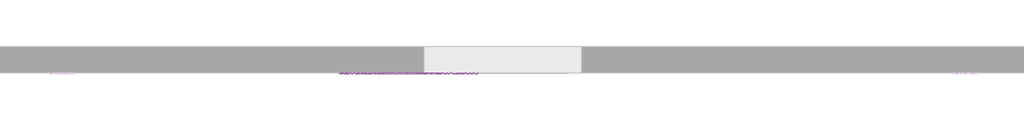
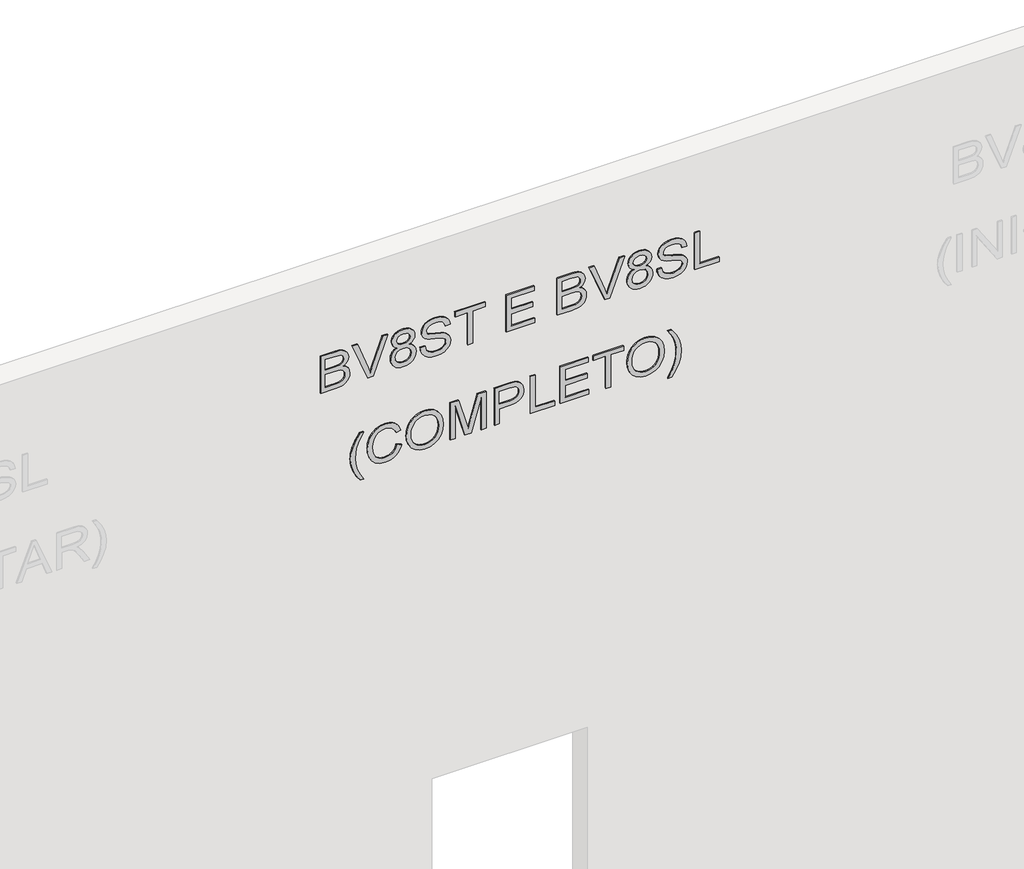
# One storey, part 3 of 5: 1 proxy.
"""IFC4 building model written with IfcOpenShell, lengths in millimetres."""

from ifc_helpers import new_model, si_unit, frame, origin, place, context, project, spatial, polyline, outline, extrude, element, save

model = new_model("IFC4")

# Units and contexts
model_context = context("Model", 3, world=origin())
ifc_project = project(units=[si_unit("LENGTHUNIT", "METRE", prefix="MILLI")], contexts=[model_context])

# Site, building, storey
site = spatial("IfcSite", under=ifc_project)
building = spatial("IfcBuilding", under=site)
storey = spatial("IfcBuildingStorey", under=building, Name="01 - Marelli - Planta Baixa - Painel Simples", Elevation=0.0)

# Proxy
placement = place(None, origin())
element("IfcBuildingElementProxy", 1, Name="300mm Arial", ObjectType="300mm Arial", at=placement, inside=storey, context=model_context, shape_type="SweptSolid", body=[
    extrude(outline(polyline([(6065.9244535, 12403.4901942), (6065.9244535, 12517.6071891), (6071.1115897, 12565.9100951), (6077.5311305, 12583.9455099), (6086.4154807, 12598.6883809), (6098.6843452, 12610.7273191), (6115.2574291, 12620.650936), (6134.7459778, 12627.300403), (6155.7612368, 12629.5168921), (6180.9795475, 12626.2703334), (6202.6294029, 12616.5306576), (6219.5887629, 12600.7577171), (6230.7355874, 12579.4113643), (6242.4802201, 12597.2812322), (6257.407032, 12609.9823581), (6274.4675596, 12617.5699243), (6292.613339, 12620.099113), (6312.3318139, 12617.0916777), (6331.1673721, 12608.0693717), (6347.1794359, 12593.740368), (6358.4274279, 12574.8128394), (6365.076895, 12550.1187604), (6367.293384, 12518.4901059), (6367.293384, 12403.4901942), (6065.9244535, 12403.4901942)]), holes=[polyline([(6244.862256, 12441.1613105), (6329.6222677, 12441.1613105), (6329.6222677, 12504.7313193), (6325.6859303, 12553.1445899), (6320.084927, 12565.6341836), (6311.1545915, 12574.8496276), (6299.7134615, 12580.5334044), (6286.5800742, 12582.4279967), (6273.0512139, 12580.3954486), (6262.0423452, 12574.2978046), (6253.6822268, 12564.1902468), (6248.0996175, 12550.1279575), (6244.862256, 12509.9552436), (6244.862256, 12441.1613105)]), polyline([(6103.5955698, 12441.1613105), (6207.1911397, 12441.1613105), (6207.1911397, 12514.7377096), (6205.9311438, 12541.5655041), (6202.1511563, 12561.2747819), (6195.262566, 12575.1899184), (6184.6767616, 12584.6352886), (6171.1387042, 12590.043154), (6155.3933548, 12591.8457757), (6141.8369032, 12590.3098684), (6130.0094971, 12585.7021464), (6113.2708663, 12570.0303734), (6105.0670978, 12546.3755611), (6103.5955698, 12518.4165295), (6103.5955698, 12441.1613105)])]), frame((0.0, 8778.3159498, 0.0), z_axis=(0.0, 1.0, 0.0), x_axis=(0.0, 0.0, 1.0)), (0.0, 0.0, 1.0), 10.0),
    extrude(outline(polyline([(6065.9244535, 12770.3421198), (6065.9244535, 12809.2640349), (6367.293384, 12924.1167938), (6367.293384, 12883.7969271), (6150.1694304, 12803.3043466), (6101.2411251, 12787.2646916), (6150.1694304, 12771.0043074), (6367.293384, 12690.732456), (6367.293384, 12650.4125894), (6065.9244535, 12770.3421198)])), frame((0.0, 8778.3159498, 0.0), z_axis=(0.0, 1.0, 0.0), x_axis=(0.0, 0.0, 1.0)), (0.0, 0.0, 1.0), 10.0),
    extrude(outline(polyline([(6231.9128098, 12999.9004848), (6221.4281729, 12976.5767663), (6204.5423893, 12959.2863125), (6182.0280112, 12948.5809465), (6154.6575908, 12945.0124911), (6135.5070337, 12946.7139453), (6118.007347, 12951.818308), (6102.1585308, 12960.3255792), (6087.960585, 12972.2357588), (6076.2596383, 12986.9234474), (6067.9018193, 13003.7632457), (6062.8871278, 13022.7551537), (6061.215564, 13043.8991714), (6062.88023, 13065.0431891), (6067.8742281, 13084.0350971), (6076.1975583, 13100.8748954), (6087.8502204, 13115.5625841), (6101.9492979, 13127.4727637), (6117.6118739, 13135.9800348), (6134.8379483, 13141.0843975), (6153.6275212, 13142.7858517), (6179.9770691, 13139.3553521), (6202.3718855, 13129.0638533), (6219.965842, 13112.1872668), (6231.9128098, 13089.001504), (6241.8180325, 13108.5268409), (6255.1997401, 13122.368401), (6271.6348682, 13130.6181547), (6290.7003526, 13133.3680726), (6306.0962141, 13131.8229683), (6320.278065, 13127.1876551), (6333.2459053, 13119.4621332), (6344.9997351, 13108.6464026), (6354.7532065, 13095.2968847), (6361.7199718, 13079.970001), (6367.293384, 13043.3841366), (6361.8487305, 13007.0190014), (6355.0429135, 12991.8576647), (6345.5147699, 12978.7104819), (6333.9862678, 12968.0878893), (6321.1793759, 12960.5003231), (6307.094094, 12955.9477834), (6291.7304222, 12954.4302702), (6272.0303413, 12957.2169763), (6255.3101047, 12965.5770946), (6241.8456236, 12979.7313544), (6231.9128098, 12999.9004848)]), holes=[polyline([(6290.6267762, 12992.1013865), (6305.525997, 12995.4950979), (6318.1443494, 13005.6762321), (6326.7527881, 13022.0193898), (6329.6222677, 13043.8991714), (6326.6884088, 13065.6409973), (6317.886832, 13082.0117461), (6304.781036, 13092.2756538), (6288.934519, 13095.6969563), (6273.6674162, 13092.3860184), (6260.9754874, 13082.4532045), (6252.422231, 13066.3031849), (6249.5711455, 13044.3406298), (6252.4406251, 13021.8538429), (6261.0490638, 13005.4555029), (6274.182451, 12995.4399156), (6290.6267762, 12992.1013865)]), polyline([(6155.981966, 12982.6836074), (6177.9629152, 12986.66593), (6195.9339506, 12998.6128978), (6207.9085096, 13017.6599881), (6211.9000292, 13042.9426782), (6207.8533273, 13068.8783589), (6195.7132214, 13088.5600456), (6177.3926981, 13100.976063), (6154.8047436, 13105.1147354), (6132.5938681, 13101.1048217), (6114.6688179, 13089.0750804), (6102.8322147, 13069.8348521), (6098.8866803, 13044.193477), (6100.7628785, 13027.4548462), (6106.391473, 13011.2312502), (6115.4505671, 12997.6839958), (6127.6182641, 12988.9743895), (6155.981966, 12982.6836074)])]), frame((0.0, 8778.3159498, 0.0), z_axis=(0.0, 1.0, 0.0), x_axis=(0.0, 0.0, 1.0)), (0.0, 0.0, 1.0), 10.0),
    extrude(outline(polyline([(6169.5200234, 13175.7480785), (6139.0961824, 13180.2178447), (6111.9832793, 13192.0084627), (6089.7264186, 13210.3749713), (6073.8707046, 13234.5724095), (6064.3793492, 13264.9502653), (6061.215564, 13301.8580264), (6064.1494229, 13331.9231825), (6072.9509996, 13358.8429475), (6087.0408801, 13381.2285669), (6105.83965, 13397.6912862), (6127.6826435, 13407.8172381), (6150.9051944, 13411.1925554), (6173.6219076, 13408.2586965), (6193.5059295, 13399.4571198), (6210.3733189, 13384.4751255), (6224.0401351, 13363.000014), (6232.8509088, 13337.8736738), (6242.9492696, 13296.3397965), (6253.5810593, 13256.0935062), (6263.9921197, 13234.8299269), (6275.6355849, 13225.8352121), (6290.1117414, 13222.8369739), (6307.0894955, 13227.0676168), (6321.381711, 13239.7595457), (6331.0937957, 13261.7037067), (6334.3311572, 13293.6910461), (6331.0570075, 13324.9426216), (6321.2345582, 13347.4753938), (6305.0109622, 13361.896368), (6282.5333723, 13368.8125496), (6282.5333723, 13406.4836659), (6307.4941657, 13402.2346288), (6329.6958441, 13391.5476569), (6347.9979733, 13374.6618733), (6361.2601193, 13351.8164014), (6369.316735, 13324.0045225), (6372.0022735, 13292.2195182), (6369.4362966, 13262.880929), (6361.7383659, 13236.3750313), (6349.0832252, 13214.2929145), (6331.6456187, 13198.2256684), (6311.0718181, 13188.4308103), (6289.0080954, 13185.1658576), (6269.2712264, 13187.8054109), (6251.5577083, 13195.7240708), (6236.198635, 13209.0138079), (6223.5251003, 13227.7665926), (6214.4660061, 13250.8052026), (6204.9470595, 13286.8116528), (6190.5628735, 13341.6628583), (6182.7545782, 13357.7393015), (6173.4563607, 13367.2674452), (6162.5578566, 13371.9579406), (6149.9487012, 13373.5214391), (6137.0084521, 13371.4337088), (6124.6752082, 13365.1705178), (6113.9330539, 13354.6398957), (6105.7660736, 13339.7498719), (6100.6065286, 13321.3741663), (6098.8866803, 13300.3864985), (6101.1583516, 13276.5477452), (6107.9733656, 13255.2105894), (6118.4763965, 13237.7545888), (6131.8121189, 13225.5593006), (6148.615129, 13217.7418082), (6169.5200234, 13213.4191948), (6169.5200234, 13175.7480785)])), frame((0.0, 8778.3159498, 0.0), z_axis=(0.0, 1.0, 0.0), x_axis=(0.0, 0.0, 1.0)), (0.0, 0.0, 1.0), 10.0),
    extrude(outline(polyline([(6065.9244535, 13543.0414625), (6065.9244535, 13580.7125788), (6329.6222677, 13580.7125788), (6329.6222677, 13679.5992591), (6367.293384, 13679.5992591), (6367.293384, 13444.1547822), (6329.6222677, 13444.1547822), (6329.6222677, 13543.0414625), (6065.9244535, 13543.0414625)])), frame((0.0, 8778.3159498, 0.0), z_axis=(0.0, 1.0, 0.0), x_axis=(0.0, 0.0, 1.0)), (0.0, 0.0, 1.0), 10.0),
    extrude(outline(polyline([(6065.9244535, 13839.7015034), (6065.9244535, 14061.0193117), (6103.5955698, 14061.0193117), (6103.5955698, 13877.3726197), (6202.4822501, 13877.3726197), (6202.4822501, 14046.8926431), (6240.1533665, 14046.8926431), (6240.1533665, 13877.3726197), (6329.6222677, 13877.3726197), (6329.6222677, 14056.3104221), (6367.293384, 14056.3104221), (6367.293384, 13839.7015034), (6065.9244535, 13839.7015034)])), frame((0.0, 8778.3159498, 0.0), z_axis=(0.0, 1.0, 0.0), x_axis=(0.0, 0.0, 1.0)), (0.0, 0.0, 1.0), 10.0),
    extrude(outline(polyline([(6065.9244535, 14235.2482246), (6065.9244535, 14349.3652195), (6071.1115897, 14397.6681255), (6077.5311305, 14415.7035403), (6086.4154807, 14430.4464112), (6098.6843452, 14442.4853495), (6115.2574291, 14452.4089664), (6134.7459778, 14459.0584334), (6155.7612368, 14461.2749224), (6180.9795475, 14458.0283638), (6202.6294029, 14448.288688), (6219.5887629, 14432.5157475), (6230.7355874, 14411.1693947), (6242.4802201, 14429.0392626), (6257.407032, 14441.7403885), (6274.4675596, 14449.3279546), (6292.613339, 14451.8571434), (6312.3318139, 14448.849708), (6331.1673721, 14439.8274021), (6347.1794359, 14425.4983984), (6358.4274279, 14406.5708698), (6365.076895, 14381.8767908), (6367.293384, 14350.2481363), (6367.293384, 14235.2482246), (6065.9244535, 14235.2482246)]), holes=[polyline([(6244.862256, 14272.9193409), (6329.6222677, 14272.9193409), (6329.6222677, 14336.4893497), (6325.6859303, 14384.9026202), (6320.084927, 14397.392214), (6311.1545915, 14406.607658), (6299.7134615, 14412.2914348), (6286.5800742, 14414.1860271), (6273.0512139, 14412.153479), (6262.0423452, 14406.055835), (6253.6822268, 14395.9482771), (6248.0996175, 14381.8859879), (6244.862256, 14341.713274), (6244.862256, 14272.9193409)]), polyline([(6103.5955698, 14272.9193409), (6207.1911397, 14272.9193409), (6207.1911397, 14346.4957399), (6205.9311438, 14373.3235344), (6202.1511563, 14393.0328123), (6195.262566, 14406.9479488), (6184.6767616, 14416.393319), (6171.1387042, 14421.8011844), (6155.3933548, 14423.6038061), (6141.8369032, 14422.0678988), (6130.0094971, 14417.4601768), (6113.2708663, 14401.7884038), (6105.0670978, 14378.1335915), (6103.5955698, 14350.1745599), (6103.5955698, 14272.9193409)])]), frame((0.0, 8778.3159498, 0.0), z_axis=(0.0, 1.0, 0.0), x_axis=(0.0, 0.0, 1.0)), (0.0, 0.0, 1.0), 10.0),
    extrude(outline(polyline([(6065.9244535, 14602.1001502), (6065.9244535, 14641.0220653), (6367.293384, 14755.8748242), (6367.293384, 14715.5549575), (6150.1694304, 14635.062377), (6101.2411251, 14619.022722), (6150.1694304, 14602.7623378), (6367.293384, 14522.4904864), (6367.293384, 14482.1706198), (6065.9244535, 14602.1001502)])), frame((0.0, 8778.3159498, 0.0), z_axis=(0.0, 1.0, 0.0), x_axis=(0.0, 0.0, 1.0)), (0.0, 0.0, 1.0), 10.0),
    extrude(outline(polyline([(6231.9128098, 14831.6585152), (6221.4281729, 14808.3347967), (6204.5423893, 14791.0443429), (6182.0280112, 14780.3389769), (6154.6575908, 14776.7705215), (6135.5070337, 14778.4719757), (6118.007347, 14783.5763384), (6102.1585308, 14792.0836095), (6087.960585, 14803.9937891), (6076.2596383, 14818.6814778), (6067.9018193, 14835.5212761), (6062.8871278, 14854.5131841), (6061.215564, 14875.6572018), (6062.88023, 14896.8012195), (6067.8742281, 14915.7931275), (6076.1975583, 14932.6329258), (6087.8502204, 14947.3206145), (6101.9492979, 14959.2307941), (6117.6118739, 14967.7380652), (6134.8379483, 14972.8424279), (6153.6275212, 14974.5438821), (6179.9770691, 14971.1133825), (6202.3718855, 14960.8218837), (6219.965842, 14943.9452972), (6231.9128098, 14920.7595344), (6241.8180325, 14940.2848713), (6255.1997401, 14954.1264314), (6271.6348682, 14962.3761851), (6290.7003526, 14965.126103), (6306.0962141, 14963.5809987), (6320.278065, 14958.9456855), (6333.2459053, 14951.2201636), (6344.9997351, 14940.404433), (6354.7532065, 14927.0549151), (6361.7199718, 14911.7280314), (6367.293384, 14875.142167), (6361.8487305, 14838.7770318), (6355.0429135, 14823.6156951), (6345.5147699, 14810.4685123), (6333.9862678, 14799.8459196), (6321.1793759, 14792.2583535), (6307.094094, 14787.7058138), (6291.7304222, 14786.1883006), (6272.0303413, 14788.9750067), (6255.3101047, 14797.335125), (6241.8456236, 14811.4893848), (6231.9128098, 14831.6585152)]), holes=[polyline([(6155.981966, 14814.4416378), (6177.9629152, 14818.4239604), (6195.9339506, 14830.3709282), (6207.9085096, 14849.4180185), (6211.9000292, 14874.7007086), (6207.8533273, 14900.6363893), (6195.7132214, 14920.318076), (6177.3926981, 14932.7340934), (6154.8047436, 14936.8727658), (6132.5938681, 14932.8628521), (6114.6688179, 14920.8331108), (6102.8322147, 14901.5928825), (6098.8866803, 14875.9515074), (6100.7628785, 14859.2128766), (6106.391473, 14842.9892806), (6115.4505671, 14829.4420262), (6127.6182641, 14820.7324199), (6155.981966, 14814.4416378)]), polyline([(6290.6267762, 14823.8594169), (6305.525997, 14827.2531283), (6318.1443494, 14837.4342625), (6326.7527881, 14853.7774201), (6329.6222677, 14875.6572018), (6326.6884088, 14897.3990277), (6317.886832, 14913.7697765), (6304.781036, 14924.0336842), (6288.934519, 14927.4549867), (6273.6674162, 14924.1440488), (6260.9754874, 14914.2112349), (6252.422231, 14898.0612153), (6249.5711455, 14876.0986602), (6252.4406251, 14853.6118732), (6261.0490638, 14837.2135333), (6274.182451, 14827.197946), (6290.6267762, 14823.8594169)])]), frame((0.0, 8778.3159498, 0.0), z_axis=(0.0, 1.0, 0.0), x_axis=(0.0, 0.0, 1.0)), (0.0, 0.0, 1.0), 10.0),
    extrude(outline(polyline([(6169.5200234, 15007.5061089), (6139.0961824, 15011.9758751), (6111.9832793, 15023.7664931), (6089.7264186, 15042.1330017), (6073.8707046, 15066.3304399), (6064.3793492, 15096.7082957), (6061.215564, 15133.6160568), (6064.1494229, 15163.6812129), (6072.9509996, 15190.6009779), (6087.0408801, 15212.9865973), (6105.83965, 15229.4493166), (6127.6826435, 15239.5752685), (6150.9051944, 15242.9505858), (6173.6219076, 15240.0167269), (6193.5059295, 15231.2151501), (6210.3733189, 15216.2331559), (6224.0401351, 15194.7580444), (6232.8509088, 15169.6317041), (6242.9492696, 15128.0978269), (6253.5810593, 15087.8515366), (6263.9921197, 15066.5879573), (6275.6355849, 15057.5932425), (6290.1117414, 15054.5950043), (6307.0894955, 15058.8256472), (6321.381711, 15071.517576), (6331.0937957, 15093.461737), (6334.3311572, 15125.4490765), (6331.0570075, 15156.700652), (6321.2345582, 15179.2334242), (6305.0109622, 15193.6543984), (6282.5333723, 15200.5705799), (6282.5333723, 15238.2416962), (6307.4941657, 15233.9926592), (6329.6958441, 15223.3056872), (6347.9979733, 15206.4199037), (6361.2601193, 15183.5744318), (6369.316735, 15155.7625529), (6372.0022735, 15123.9775485), (6369.4362966, 15094.6389594), (6361.7383659, 15068.1330617), (6349.0832252, 15046.0509449), (6331.6456187, 15029.9836988), (6311.0718181, 15020.1888407), (6289.0080954, 15016.923888), (6269.2712264, 15019.5634413), (6251.5577083, 15027.4821012), (6236.198635, 15040.7718383), (6223.5251003, 15059.524623), (6214.4660061, 15082.5632329), (6204.9470595, 15118.5696832), (6190.5628735, 15173.4208887), (6182.7545782, 15189.4973319), (6173.4563607, 15199.0254756), (6162.5578566, 15203.715971), (6149.9487012, 15205.2794695), (6137.0084521, 15203.1917392), (6124.6752082, 15196.9285482), (6113.9330539, 15186.3979261), (6105.7660736, 15171.5079023), (6100.6065286, 15153.1321967), (6098.8866803, 15132.1445288), (6101.1583516, 15108.3057756), (6107.9733656, 15086.9686198), (6118.4763965, 15069.5126192), (6131.8121189, 15057.317331), (6148.615129, 15049.4998386), (6169.5200234, 15045.1772252), (6169.5200234, 15007.5061089)])), frame((0.0, 8778.3159498, 0.0), z_axis=(0.0, 1.0, 0.0), x_axis=(0.0, 0.0, 1.0)), (0.0, 0.0, 1.0), 10.0),
    extrude(outline(polyline([(6065.9244535, 15299.4572602), (6065.9244535, 15487.8128418), (6103.5955698, 15487.8128418), (6103.5955698, 15337.1283766), (6367.293384, 15337.1283766), (6367.293384, 15299.4572602), (6065.9244535, 15299.4572602)])), frame((0.0, 8778.3159498, 0.0), z_axis=(0.0, 1.0, 0.0), x_axis=(0.0, 0.0, 1.0)), (0.0, 0.0, 1.0), 10.0),
    extrude(outline(polyline([(5249.3155348, 12709.5680142), (5249.3155348, 12737.8213514), (5297.5540614, 12708.979403), (5345.8109821, 12688.3780113), (5394.0862969, 12676.0171762), (5442.3800058, 12671.8968979), (5480.2534572, 12674.2697368), (5517.9429677, 12681.3882534), (5575.7740173, 12702.5782563), (5635.4444769, 12737.8213514), (5635.4444769, 12709.5680142), (5584.934279, 12674.8767421), (5534.2033518, 12650.5597422), (5489.4137189, 12638.3092717), (5442.600735, 12634.2257816), (5389.2210575, 12639.6888292), (5337.68079, 12656.0779721), (5290.2791949, 12680.3765779), (5249.3155348, 12709.5680142)])), frame((0.0, 8778.3159498, 0.0), z_axis=(0.0, 1.0, 0.0), x_axis=(0.0, 0.0, 1.0)), (0.0, 0.0, 1.0), 10.0),
    extrude(outline(polyline([(5441.2027835, 12992.1013865), (5408.9395325, 12979.9152954), (5385.7261786, 12960.1324411), (5371.7098746, 12933.930046), (5367.0377732, 12902.4853325), (5370.4682728, 12875.5103852), (5380.7597717, 12850.5036066), (5397.9858461, 12829.6446974), (5422.2200725, 12815.1133586), (5452.3128197, 12806.5876934), (5487.1144565, 12803.745805), (5515.5333406, 12806.146235), (5543.1060961, 12813.347525), (5567.4966724, 12826.4717152), (5586.3690188, 12846.6408456), (5598.4539423, 12873.2203198), (5602.4822501, 12905.5755412), (5598.8494154, 12933.6449375), (5587.9509113, 12956.4904094), (5569.1061561, 12974.3326861), (5541.6345681, 12987.392497), (5550.6108888, 13025.0636133), (5588.4291579, 13008.42615), (5603.751443, 12996.6240358), (5616.6824952, 12982.4996664), (5626.9510013, 12966.3197564), (5634.2856486, 12948.3510202), (5640.1533665, 12907.0470692), (5635.6192209, 12869.1920119), (5622.0167841, 12834.6478926), (5599.6771499, 12805.5208356), (5568.9314122, 12783.9169654), (5530.9843844, 12770.5352579), (5487.0408801, 12766.0746887), (5445.3782441, 12770.0202231), (5406.4747231, 12781.8568263), (5373.3837376, 12801.2442074), (5349.1587083, 12827.8420757), (5334.3146698, 12862.5425448), (5329.3666569, 12906.2377288), (5331.0014325, 12928.6601364), (5335.9057594, 12949.2799223), (5344.0796375, 12968.0970863), (5355.5230668, 12985.1116286), (5370.0796975, 12999.9878568), (5387.5931797, 13012.3900785), (5408.0635135, 13022.3182939), (5431.4906988, 13029.7725028), (5441.2027835, 12992.1013865)])), frame((0.0, 8778.3159498, 0.0), z_axis=(0.0, 1.0, 0.0), x_axis=(0.0, 0.0, 1.0)), (0.0, 0.0, 1.0), 10.0),
    extrude(outline(polyline([(5480.7868861, 13067.4436191), (5442.2420501, 13071.7478385), (5405.7757473, 13084.6604965), (5374.0827134, 13105.9240758), (5349.8576841, 13135.281059), (5334.4894137, 13170.9288244), (5329.3666569, 13211.06475), (5334.0019701, 13248.8738221), (5347.9079095, 13284.0157497), (5370.8269578, 13313.9797382), (5402.5015976, 13336.254993), (5440.9636602, 13350.078159), (5484.2449769, 13354.6858809), (5526.9560765, 13350.3080852), (5564.8847102, 13337.174698), (5596.5041677, 13315.6903895), (5620.2877387, 13286.2598298), (5635.1869595, 13250.8143996), (5640.1533665, 13211.2854792), (5637.5092146, 13180.9949954), (5629.5767591, 13153.6199765), (5616.3559999, 13129.1604223), (5597.846937, 13107.616333), (5574.6657728, 13090.0407707), (5547.4287096, 13077.4867976), (5516.1357474, 13069.9544137), (5480.7868861, 13067.4436191)]), holes=[polyline([(5480.4190041, 13105.1147354), (5510.955509, 13107.0783056), (5536.7877229, 13112.969016), (5557.9156457, 13122.7868668), (5574.3392775, 13136.5318578), (5586.651828, 13152.9991756), (5595.446507, 13170.9840067), (5600.7233144, 13190.4863509), (5602.4822501, 13211.5062084), (5598.8310213, 13240.6700536), (5587.8773349, 13266.7988723), (5570.2833785, 13288.4579248), (5546.7113397, 13304.2124712), (5517.8877854, 13313.8141913), (5484.5392825, 13317.0147646), (5458.0011951, 13315.1454642), (5434.672878, 13309.5375631), (5414.5543314, 13300.1910611), (5397.6455552, 13287.1059584), (5384.2546506, 13271.123785), (5374.6897187, 13253.0860709), (5368.9507596, 13232.9928162), (5367.0377732, 13210.8440208), (5368.9323655, 13189.067706), (5374.6161423, 13169.208976), (5384.0891037, 13151.267831), (5397.3512496, 13135.2442708), (5413.9105379, 13122.0625991), (5433.2749265, 13112.6471193), (5455.4444152, 13106.9978314), (5480.4190041, 13105.1147354)])]), frame((0.0, 8778.3159498, 0.0), z_axis=(0.0, 1.0, 0.0), x_axis=(0.0, 0.0, 1.0)), (0.0, 0.0, 1.0), 10.0),
    extrude(outline(polyline([(5334.0755465, 13406.4836659), (5334.0755465, 13444.1547822), (5597.7733606, 13444.1547822), (5334.0755465, 13519.8648968), (5334.0755465, 13570.9269177), (5597.7733606, 13646.6370323), (5334.0755465, 13646.6370323), (5334.0755465, 13684.3081486), (5635.4444769, 13684.3081486), (5635.4444769, 13619.4873411), (5426.7082328, 13558.8603883), (5378.6628443, 13545.3959072), (5423.0294129, 13532.9614958), (5635.4444769, 13471.3044734), (5635.4444769, 13406.4836659), (5334.0755465, 13406.4836659)])), frame((0.0, 8778.3159498, 0.0), z_axis=(0.0, 1.0, 0.0), x_axis=(0.0, 0.0, 1.0)), (0.0, 0.0, 1.0), 10.0),
    extrude(outline(polyline([(5334.0755465, 13750.2326022), (5334.0755465, 13787.9037185), (5456.5066745, 13787.9037185), (5456.5066745, 13864.4967499), (5458.1713405, 13893.695084), (5463.1653386, 13918.0143831), (5471.4886687, 13937.4546473), (5483.1413309, 13952.0158765), (5497.1990217, 13962.6223743), (5512.7374374, 13970.1984441), (5529.7565782, 13974.744086), (5548.2564441, 13976.2593), (5569.7131614, 13974.0152198), (5589.3488629, 13967.2829793), (5605.9955232, 13956.8627218), (5618.4851169, 13943.5545906), (5627.2131173, 13927.027492), (5632.5749974, 13906.9503321), (5635.4444769, 13861.9215759), (5635.4444769, 13750.2326022), (5334.0755465, 13750.2326022)]), holes=[polyline([(5494.1777908, 13787.9037185), (5597.7733606, 13787.9037185), (5597.7733606, 13865.821125), (5595.1981866, 13903.4922413), (5588.8706163, 13917.7200775), (5578.1284621, 13928.9128872), (5563.8546407, 13936.1693596), (5546.9320689, 13938.5881837), (5524.6568141, 13934.4862994), (5508.0101538, 13922.1806467), (5497.6358815, 13900.107727), (5494.1777908, 13866.7040418), (5494.1777908, 13787.9037185)])]), frame((0.0, 8778.3159498, 0.0), z_axis=(0.0, 1.0, 0.0), x_axis=(0.0, 0.0, 1.0)), (0.0, 0.0, 1.0), 10.0),
    extrude(outline(polyline([(5334.0755465, 14028.0570849), (5334.0755465, 14216.4126664), (5371.7466628, 14216.4126664), (5371.7466628, 14065.7282012), (5635.4444769, 14065.7282012), (5635.4444769, 14028.0570849), (5334.0755465, 14028.0570849)])), frame((0.0, 8778.3159498, 0.0), z_axis=(0.0, 1.0, 0.0), x_axis=(0.0, 0.0, 1.0)), (0.0, 0.0, 1.0), 10.0),
    extrude(outline(polyline([(5334.0755465, 14258.7926723), (5334.0755465, 14480.1104806), (5371.7466628, 14480.1104806), (5371.7466628, 14296.4637886), (5470.6333431, 14296.4637886), (5470.6333431, 14465.983812), (5508.3044594, 14465.983812), (5508.3044594, 14296.4637886), (5597.7733606, 14296.4637886), (5597.7733606, 14475.4015911), (5635.4444769, 14475.4015911), (5635.4444769, 14258.7926723), (5334.0755465, 14258.7926723)])), frame((0.0, 8778.3159498, 0.0), z_axis=(0.0, 1.0, 0.0), x_axis=(0.0, 0.0, 1.0)), (0.0, 0.0, 1.0), 10.0),
    extrude(outline(polyline([(5334.0755465, 14611.9593877), (5334.0755465, 14649.630504), (5597.7733606, 14649.630504), (5597.7733606, 14748.5171843), (5635.4444769, 14748.5171843), (5635.4444769, 14513.0727074), (5597.7733606, 14513.0727074), (5597.7733606, 14611.9593877), (5334.0755465, 14611.9593877)])), frame((0.0, 8778.3159498, 0.0), z_axis=(0.0, 1.0, 0.0), x_axis=(0.0, 0.0, 1.0)), (0.0, 0.0, 1.0), 10.0),
    extrude(outline(polyline([(5480.7868861, 14776.7705215), (5442.2420501, 14781.0747408), (5405.7757473, 14793.9873989), (5374.0827134, 14815.2509782), (5349.8576841, 14844.6079614), (5334.4894137, 14880.2557267), (5329.3666569, 14920.3916524), (5334.0019701, 14958.2007245), (5347.9079095, 14993.3426521), (5370.8269578, 15023.3066406), (5402.5015976, 15045.5818954), (5440.9636602, 15059.4050613), (5484.2449769, 15064.0127833), (5526.9560765, 15059.6349876), (5564.8847102, 15046.5016004), (5596.5041677, 15025.0172918), (5620.2877387, 14995.5867322), (5635.1869595, 14960.141302), (5640.1533665, 14920.6123816), (5637.5092146, 14890.3218978), (5629.5767591, 14862.9468789), (5616.3559999, 14838.4873247), (5597.846937, 14816.9432354), (5574.6657728, 14799.3676731), (5547.4287096, 14786.8137), (5516.1357474, 14779.2813161), (5480.7868861, 14776.7705215)]), holes=[polyline([(5480.4190041, 14814.4416378), (5510.955509, 14816.405208), (5536.7877229, 14822.2959184), (5557.9156457, 14832.1137691), (5574.3392775, 14845.8587602), (5586.651828, 14862.326078), (5595.446507, 14880.310909), (5600.7233144, 14899.8132533), (5602.4822501, 14920.8331108), (5598.8310213, 14949.996956), (5587.8773349, 14976.1257747), (5570.2833785, 14997.7848272), (5546.7113397, 15013.5393736), (5517.8877854, 15023.1410937), (5484.5392825, 15026.341667), (5458.0011951, 15024.4723666), (5434.672878, 15018.8644655), (5414.5543314, 15009.5179635), (5397.6455552, 14996.4328608), (5384.2546506, 14980.4506874), (5374.6897187, 14962.4129733), (5368.9507596, 14942.3197186), (5367.0377732, 14920.1709232), (5368.9323655, 14898.3946084), (5374.6161423, 14878.5358784), (5384.0891037, 14860.5947334), (5397.3512496, 14844.5711732), (5413.9105379, 14831.3895015), (5433.2749265, 14821.9740217), (5455.4444152, 14816.3247338), (5480.4190041, 14814.4416378)])]), frame((0.0, 8778.3159498, 0.0), z_axis=(0.0, 1.0, 0.0), x_axis=(0.0, 0.0, 1.0)), (0.0, 0.0, 1.0), 10.0),
    extrude(outline(polyline([(5249.3155348, 15120.5194578), (5290.2791949, 15149.5729384), (5337.68079, 15173.8991353), (5389.2210575, 15190.3710516), (5442.600735, 15195.8616904), (5489.4137189, 15191.7782003), (5534.2033518, 15179.5277298), (5584.934279, 15155.2107299), (5635.4444769, 15120.5194578), (5635.4444769, 15092.2661206), (5575.1854061, 15127.7299449), (5546.8400984, 15139.7045038), (5517.2807801, 15148.6992186), (5479.9775458, 15155.8177352), (5442.3800058, 15158.1905741), (5394.0862969, 15154.0702958), (5345.8109821, 15141.7094607), (5297.5540614, 15121.108069), (5249.3155348, 15092.2661206), (5249.3155348, 15120.5194578)])), frame((0.0, 8778.3159498, 0.0), z_axis=(0.0, 1.0, 0.0), x_axis=(0.0, 0.0, 1.0)), (0.0, 0.0, 1.0), 10.0),
])

save(model, "model.ifc")
